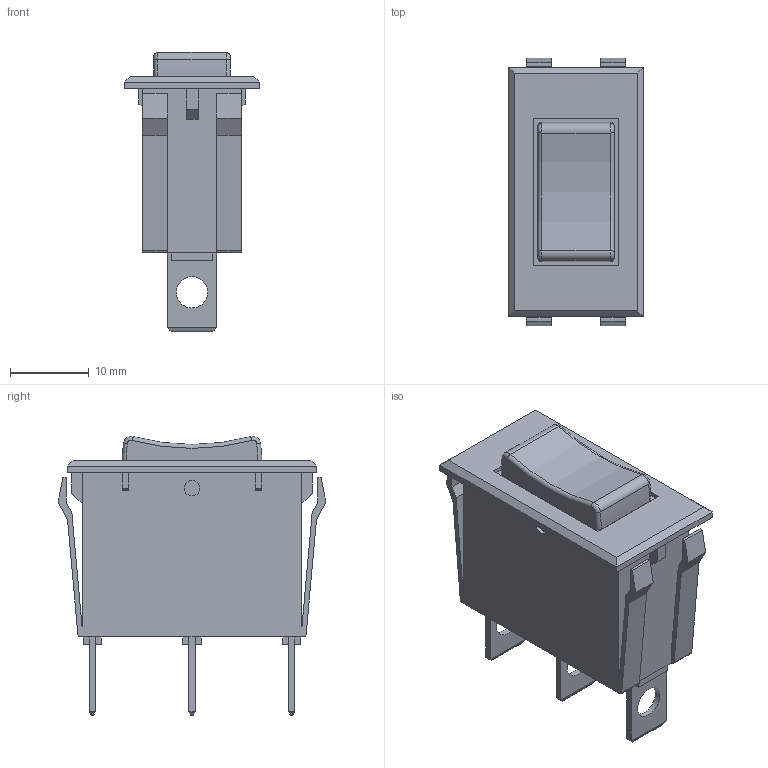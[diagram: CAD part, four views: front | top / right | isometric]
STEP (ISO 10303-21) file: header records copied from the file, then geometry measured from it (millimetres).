
FILE_DESCRIPTION(/* description */ (''),/* implementation_level */ '2;1');
FILE_NAME(/* name */ 'RG1-1F-DC-1-B.stp',/* time_stamp */ '2023-10-13T07:49:35-07:00',/* author */ ('RaniahC'),/* organization */ (''),/* preprocessor_version */ 'ST-DEVELOPER v19.2',/* originating_system */ 'Autodesk Inventor 2024',/* authorisation */ '');
FILE_SCHEMA (('AUTOMOTIVE_DESIGN { 1 0 10303 214 3 1 1 }'));
Length unit declared in the file: millimetre
Products named in the file (3): RG1-1F-DC-1-B Assembly; Switch Button; Part24
Assembly tree (2 placements, depth 2):
  RG1-1F-DC-1-B Assembly
    Switch Button
    Part24
Bounding box: 17.2 x 34.07 x 35.54 mm (x, y, z)
Volume: 8939.9 mm3; surface area: 4458.7 mm2
Topology: 2 solids, 2 shells, 158 faces, 411 edges, 266 vertices
Faces by surface type: plane 134, cylinder 14, torus 6, bspline 4
Full cylindrical faces by diameter (mm): 2 x2, 3.988 x3
Entity records: 4948 total; most frequent: CARTESIAN_POINT 897, ORIENTED_EDGE 822, DIRECTION 781, EDGE_CURVE 411, LINE 361, VECTOR 361, VERTEX_POINT 266, AXIS2_PLACEMENT_3D 210
